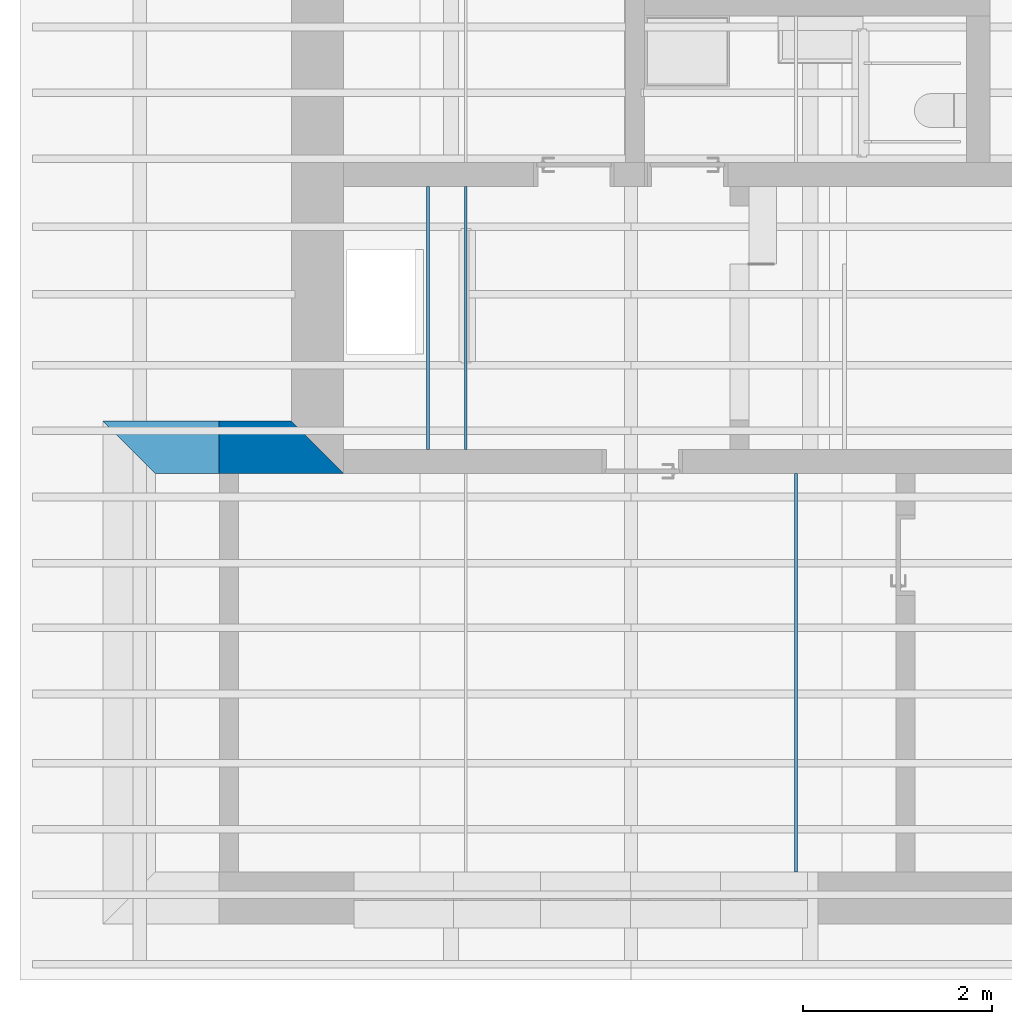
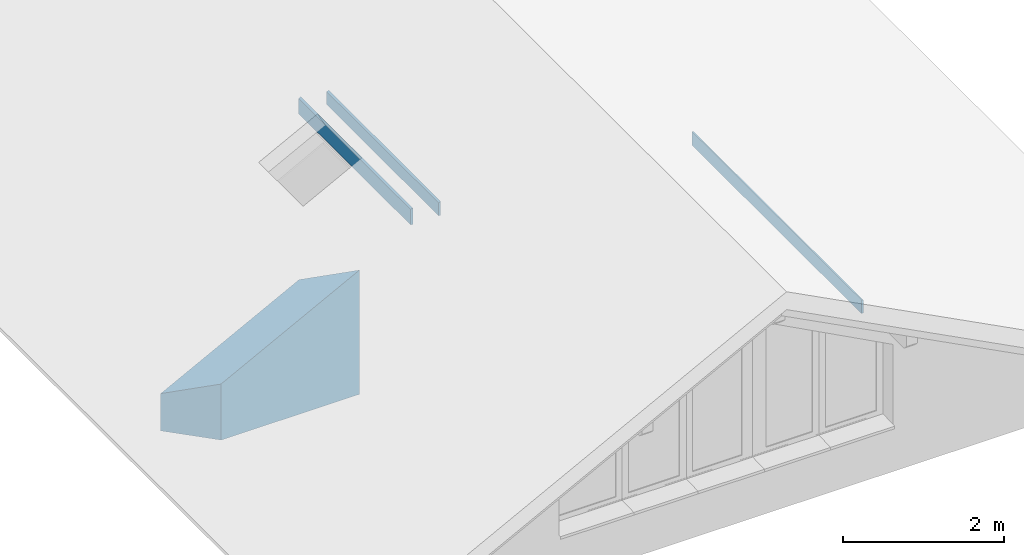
# One storey, part 5 of 18: 4 walls.
"""IFC2X3 building model written with IfcOpenShell, lengths in metres."""

from ifc_helpers import new_model, entity, si_unit, converted_unit, derived_unit, direction, frame, frame_2d, origin, place, context, subcontext, project, spatial, polyline, rectangle, outline, extrude, clip, bounded_halfspace, material, layer, layer_set, layer_usage, type_object, element, save


model = new_model("IFC2X3")

# Units and contexts
model_context = context("Model", 3, precision=1e-05, world=origin(), true_north=direction((6.123233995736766e-17, 1.0)))
body_context = subcontext(model_context, "Body", "Model", "MODEL_VIEW")
ifc_project = project(units=[si_unit("LENGTHUNIT", "METRE"), si_unit("AREAUNIT", "SQUARE_METRE"), si_unit("VOLUMEUNIT", "CUBIC_METRE"), si_unit("POWERUNIT", "WATT"), derived_unit("USERDEFINED", [(si_unit("MASSUNIT", "GRAM", prefix="KILO"), 1), (si_unit("TIMEUNIT", "SECOND"), -3)]), derived_unit("THERMALRESISTANCEUNIT", [(si_unit("MASSUNIT", "GRAM", prefix="KILO"), -1), (si_unit("TIMEUNIT", "SECOND"), 3), (si_unit("THERMODYNAMICTEMPERATUREUNIT", "KELVIN"), 1)]), derived_unit("USERDEFINED", [(si_unit("MASSUNIT", "GRAM", prefix="KILO"), 1), (si_unit("TIMEUNIT", "SECOND"), -2), (si_unit("THERMODYNAMICTEMPERATUREUNIT", "KELVIN"), -1)]), derived_unit("THERMALTRANSMITTANCEUNIT", [(si_unit("MASSUNIT", "GRAM", prefix="KILO"), 1), (si_unit("TIMEUNIT", "SECOND"), -3), (si_unit("THERMODYNAMICTEMPERATUREUNIT", "KELVIN"), -1)]), converted_unit("PLANEANGLEUNIT", "DEGREE", entity("IfcPlaneAngleMeasure", 0.017453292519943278), si_unit("PLANEANGLEUNIT", "RADIAN"), dimensions=[0, 0, 0, 0, 0, 0, 0]), derived_unit("MOMENTOFINERTIAUNIT", [(si_unit("LENGTHUNIT", "METRE"), 4)])], contexts=[model_context])

# Site, building, storey
site_placement = place(None, origin())
site = spatial("IfcSite", under=ifc_project, at=site_placement, Name="Default", CompositionType="ELEMENT")
building_placement = place(site_placement, origin())
building = spatial("IfcBuilding", under=site, at=building_placement, CompositionType="ELEMENT")
storey_placement = place(building_placement, frame((0.0, 0.0, 5.4)))
storey = spatial("IfcBuildingStorey", under=building, at=storey_placement, Name="1. Obergeschoss", CompositionType="ELEMENT", Elevation=5.4)

# Walls
ifc_material_1 = material(Name="Dämmung - hart")
ifc_layer_1 = layer(ifc_material_1, 0.24999999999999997)
ifc_material_2 = material(Name="Mauerwerk - Ziegel")
ifc_layer_2 = layer(ifc_material_2, 0.29999999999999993)
ifc_layer_set_1 = layer_set([ifc_layer_1, ifc_layer_2], Name="Basiswand:Ziegel+WD hart 300+250")
ifc_layer_usage_1 = layer_usage(ifc_layer_set_1, "AXIS2", "POSITIVE", -0.27499999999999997)
wall_type_1 = type_object("IfcWallType", Name="Basiswand:Ziegel+WD hart 300+250", PredefinedType="STANDARD", material=ifc_layer_set_1)
wall_1_placement = place(storey_placement, frame((30.086720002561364, 20.32727237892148, 0.0), z_axis=(0.0, 0.0, 1.0), x_axis=(-1.0, 0.0, 0.0)))
element("IfcWallStandardCase", 1, at=wall_1_placement, inside=storey, type_object=wall_type_1, material=ifc_layer_usage_1, Name="Basiswand:Ziegel+WD hart 300+250", ObjectType="Basiswand:Ziegel+WD hart 300+250", context=body_context, shape_type="Clipping", body=[
    clip(extrude(outline(polyline([(2.5358787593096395, -0.2750000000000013), (1.9858787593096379, 0.27499999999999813), (1.3052734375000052, 0.27500000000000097), (1.105273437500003, 0.2750000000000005), (0.0, 0.27499999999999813), (0.5500000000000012, -0.2750000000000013), (2.5358787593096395, -0.2750000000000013)])), origin(), (0.0, 0.0, 1.0), 1.8848151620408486), bounded_halfspace(frame((0.5500000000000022, -0.27500000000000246, 1.598503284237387), z_axis=(0.4617486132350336, 0.0, 0.8870108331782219), x_axis=(0.0, 1.0, 0.0)), False, frame((0.5500000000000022, -0.27500000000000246, 1.598503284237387)), polyline([(0.0, 0.0), (1.9858787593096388, 0.0), (1.435878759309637, 0.5500000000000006), (0.7552734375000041, 0.5500000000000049), (0.5552734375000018, 0.5500000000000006), (-0.5500000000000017, 0.5500000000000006), (0.0, 0.0)]))),
])
ifc_material_3 = material(Name="Trockenbau - Gipsplatte")
ifc_layer_3 = layer(ifc_material_3, 0.03)
ifc_layer_set_2 = layer_set([ifc_layer_3], Name="Basiswand:1OG Wand 30")
ifc_layer_usage_2 = layer_usage(ifc_layer_set_2, "AXIS2", "NEGATIVE", 0.015)
wall_type_2 = type_object("IfcWallType", Name="Basiswand:1OG Wand 30", PredefinedType="STANDARD", material=ifc_layer_set_2)
wall_2_placement = place(storey_placement, frame((34.86606672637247, 20.052272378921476, 2.1089604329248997), z_axis=(0.0, 0.0, 1.0), x_axis=(0.0, -1.0, 0.0)))
element("IfcWallStandardCase", 2, at=wall_2_placement, inside=storey, type_object=wall_type_2, material=ifc_layer_usage_2, Name="Basiswand:1OG Wand 30", ObjectType="Basiswand:1OG Wand 30", context=body_context, shape_type="Clipping", body=[
    clip(extrude(rectangle(XDim=4.210000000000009, YDim=0.030000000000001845, at=frame_2d((2.1050000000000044, 0.0), x_axis=(-1.0, 0.0))), origin(), (0.0, 0.0, 1.0), 0.20892724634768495), bounded_halfspace(frame((0.0, -0.014999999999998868, 0.20892724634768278), z_axis=(7.890487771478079e-06, 0.45123126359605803, 0.8924070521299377), x_axis=(-1.0, 0.0, 8.841803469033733e-06)), False, frame((0.0, -0.014999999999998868, 0.20892724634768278), z_axis=(7.890487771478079e-06, 0.45123126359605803, 0.8924070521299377), x_axis=(-1.0, 0.0, 8.841803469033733e-06)), polyline([(0.0, 0.0), (-4.7175781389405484, 0.0), (-4.717578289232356, -0.03766996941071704), (-1.5029180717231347e-07, -0.03766996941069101), (0.0, 0.0)]))),
])
ifc_layer_usage_3 = layer_usage(ifc_layer_set_2, "AXIS2", "NEGATIVE", 0.015)
wall_3_placement = place(storey_placement, frame((31.37901434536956, 23.082272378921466, 2.106853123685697), z_axis=(0.0, 0.0, 1.0), x_axis=(0.0, -1.0, 0.0)))
element("IfcWallStandardCase", 3, at=wall_3_placement, inside=storey, type_object=wall_type_2, material=ifc_layer_usage_3, Name="Basiswand:1OG Wand 30", ObjectType="Basiswand:1OG Wand 30", context=body_context, shape_type="Clipping", body=[
    clip(extrude(rectangle(XDim=2.7799999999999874, YDim=0.030000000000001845, at=frame_2d((1.3899999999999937, 6.947567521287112e-16), x_axis=(-1.0, 0.0))), origin(), (0.0, 0.0, 1.0), 0.21097205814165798), bounded_halfspace(frame((0.0, -0.015000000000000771, 0.1958023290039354), z_axis=(1.1949149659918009e-05, -0.4512481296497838, 0.8923985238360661), x_axis=(1.0, 0.0, -1.3389925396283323e-05)), False, frame((0.0, -0.015000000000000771, 0.1958023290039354), z_axis=(1.1949149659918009e-05, -0.4512481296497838, 0.8923985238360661), x_axis=(1.0, 0.0, -1.3389925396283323e-05)), polyline([(0.0, 0.0), (3.115200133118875, 0.0), (3.1151999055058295, 0.037670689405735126), (-2.2761304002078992e-07, 0.037670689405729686), (0.0, 0.0)]))),
])
ifc_layer_usage_4 = layer_usage(ifc_layer_set_2, "AXIS2", "NEGATIVE", 0.015)
wall_4_placement = place(storey_placement, frame((30.979014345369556, 23.08227237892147, 2.106853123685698), z_axis=(0.0, 0.0, 1.0), x_axis=(0.0, -1.0, 0.0)))
element("IfcWallStandardCase", 4, at=wall_4_placement, inside=storey, type_object=wall_type_2, material=ifc_layer_usage_4, Name="Basiswand:1OG Wand 30", ObjectType="Basiswand:1OG Wand 30", context=body_context, shape_type="Clipping", body=[
    clip(extrude(rectangle(XDim=2.7799999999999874, YDim=0.030000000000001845, at=frame_2d((1.3899999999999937, 6.947567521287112e-16), x_axis=(-1.0, 0.0))), origin(), (0.0, 0.0, 1.0), 0.25026957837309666), bounded_halfspace(frame((0.0, -0.015000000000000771, 0.23465256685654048), z_axis=(0.0, -0.4617486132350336, 0.8870108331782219), x_axis=(1.0, 0.0, 0.0)), False, frame((0.0, -0.015000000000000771, 0.23465256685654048), z_axis=(0.0, -0.4617486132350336, 0.8870108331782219), x_axis=(1.0, 0.0, 0.0)), polyline([(0.0, 0.0), (3.1341218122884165, 0.0), (3.1341218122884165, 0.03812970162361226), (0.0, 0.03812970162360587), (0.0, 0.0)]))),
])

save(model, "model.ifc")
